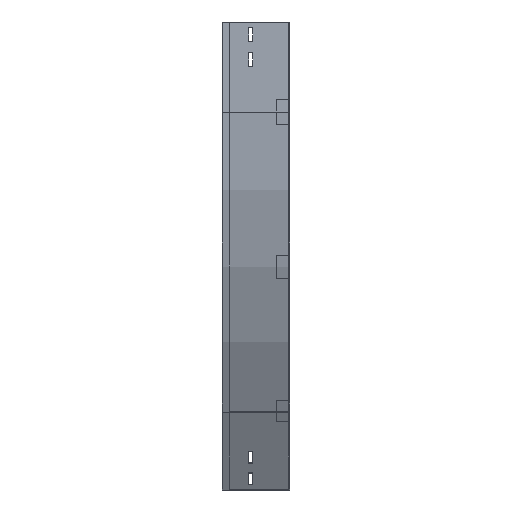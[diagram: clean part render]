
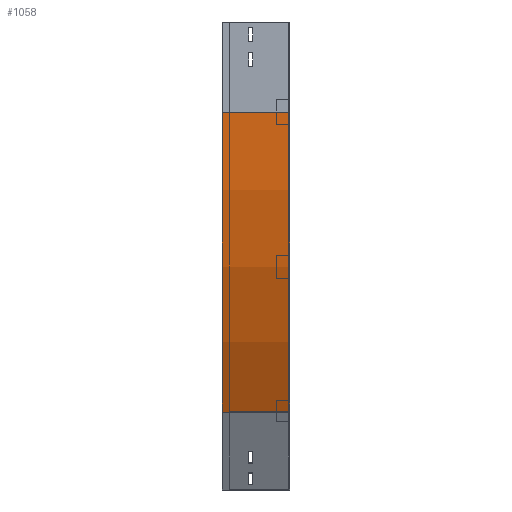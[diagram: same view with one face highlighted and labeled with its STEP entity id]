
A CAD part, left-side view. The second image highlights one B-rep face of the part: STEP entity #1058.
In plain terms, the highlighted cylindrical face has radius 1000 mm (diameter 2000 mm), a partial arc.
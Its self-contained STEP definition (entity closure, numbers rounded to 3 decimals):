
#138 = DIRECTION ( 'NONE',  ( -1., 0., 0. ) ) ;
#153 = AXIS2_PLACEMENT_3D ( 'NONE', #854, #254, #511 ) ;
#242 = LINE ( 'NONE', #2916, #3281 ) ;
#246 = EDGE_CURVE ( 'NONE', #774, #3095, #2612, .T. ) ;
#254 = DIRECTION ( 'NONE',  ( 0., -1., 0. ) ) ;
#272 = DIRECTION ( 'NONE',  ( 0., -1., 0. ) ) ;
#279 = CARTESIAN_POINT ( 'NONE',  ( 133.975, 0., -650. ) ) ;
#511 = DIRECTION ( 'NONE',  ( 0., 0., -1. ) ) ;
#535 = DIRECTION ( 'NONE',  ( 0., -1., 0. ) ) ;
#705 = VERTEX_POINT ( 'NONE', #3354 ) ;
#774 = VERTEX_POINT ( 'NONE', #2088 ) ;
#854 = CARTESIAN_POINT ( 'NONE',  ( 1000., 0., -150. ) ) ;
#964 = EDGE_CURVE ( 'NONE', #705, #774, #2064, .T. ) ;
#1015 = CARTESIAN_POINT ( 'NONE',  ( 133.975, 112.5, -650. ) ) ;
#1058 = ADVANCED_FACE ( 'NONE', ( #2567 ), #3461, .T. ) ;
#1162 = DIRECTION ( 'NONE',  ( 0., -1., 0. ) ) ;
#1172 = ORIENTED_EDGE ( 'NONE', *, *, #964, .F. ) ;
#1472 = EDGE_CURVE ( 'NONE', #2844, #3095, #242, .T. ) ;
#1749 = CARTESIAN_POINT ( 'NONE',  ( 0., 0., -150. ) ) ;
#2064 = LINE ( 'NONE', #1749, #3380 ) ;
#2088 = CARTESIAN_POINT ( 'NONE',  ( 0., 0., -150. ) ) ;
#2204 = CARTESIAN_POINT ( 'NONE',  ( 1000., 112.5, -150. ) ) ;
#2291 = DIRECTION ( 'NONE',  ( -1., 0., 0. ) ) ;
#2567 = FACE_OUTER_BOUND ( 'NONE', #3570, .T. ) ;
#2570 = EDGE_CURVE ( 'NONE', #705, #2844, #2648, .T. ) ;
#2612 = CIRCLE ( 'NONE', #3049, 1000. ) ;
#2647 = ORIENTED_EDGE ( 'NONE', *, *, #1472, .T. ) ;
#2648 = CIRCLE ( 'NONE', #3775, 1000. ) ;
#2800 = DIRECTION ( 'NONE',  ( 0., -1., 0. ) ) ;
#2844 = VERTEX_POINT ( 'NONE', #1015 ) ;
#2916 = CARTESIAN_POINT ( 'NONE',  ( 133.975, 0., -650. ) ) ;
#3049 = AXIS2_PLACEMENT_3D ( 'NONE', #3254, #1162, #2291 ) ;
#3095 = VERTEX_POINT ( 'NONE', #279 ) ;
#3254 = CARTESIAN_POINT ( 'NONE',  ( 1000., 0., -150. ) ) ;
#3281 = VECTOR ( 'NONE', #535, 1000. ) ;
#3343 = ORIENTED_EDGE ( 'NONE', *, *, #246, .F. ) ;
#3354 = CARTESIAN_POINT ( 'NONE',  ( 0., 112.5, -150. ) ) ;
#3380 = VECTOR ( 'NONE', #272, 1000. ) ;
#3461 = CYLINDRICAL_SURFACE ( 'NONE', #153, 1000. ) ;
#3570 = EDGE_LOOP ( 'NONE', ( #3343, #1172, #3848, #2647 ) ) ;
#3775 = AXIS2_PLACEMENT_3D ( 'NONE', #2204, #2800, #138 ) ;
#3848 = ORIENTED_EDGE ( 'NONE', *, *, #2570, .T. ) ;
